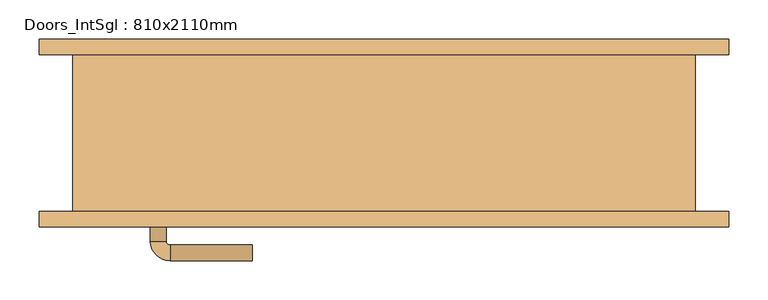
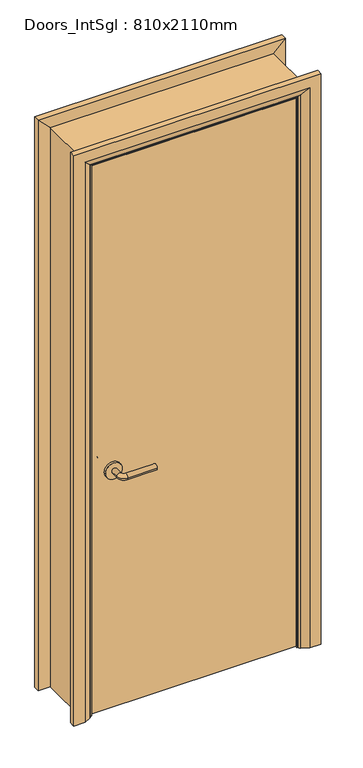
"""IFC4 building model written with IfcOpenShell, lengths in millimetres: door geometry, Doors_IntSgl : 810x2110mm."""

from ifc_helpers import new_model, si_unit, point, frame, frame_2d, origin, place, context, project, spatial, polyline, circle_curve, ellipse_curve, trimmed, segment, composite_curve, outline, extrude, faceted_brep, source, transform, mapped, element, save
from ifc_brep_helpers import plane_surface, cylinder_surface, revolved_surface, advanced_brep


def doors_intsgl_810x2110mm_068f3592(model_context):
    return source(origin(), model_context, "Body", "SolidModel", [
        advanced_brep(
        [(-298.0, -54.0, 900.0), (-278.0, -54.0, 900.0), (-298.0, -24.0, 900.0), (-278.0, -24.0, 900.0), (-273.0, -19.0, 900.0), (-273.0, 1.0, 900.0), (-168.0, 1.0, 900.0), (-168.0, -19.0, 900.0)],
        [
            (0, 1, circle_curve(frame((-288.0, -54.0, 900.0), z_axis=(0.0, -1.0, 0.0), x_axis=(1.0, 0.0, 0.0)), 10.0)),
            (1, 0, circle_curve(frame((-288.0, -54.0, 900.0), z_axis=(0.0, -1.0, 0.0), x_axis=(1.0, 0.0, 0.0)), 10.0)),
            (0, 2),
            (2, 3, circle_curve(frame((-288.0, -24.0, 900.0), z_axis=(0.0, -1.0, 0.0), x_axis=(1.0, 0.0, 0.0)), 10.0)),
            (3, 1),
            (3, 2, circle_curve(frame((-288.0, -24.0, 900.0), z_axis=(0.0, -1.0, 0.0), x_axis=(1.0, 0.0, 0.0)), 10.0)),
            (4, 3, circle_curve(frame((-273.0, -24.0, 900.0), z_axis=(0.0, 0.0, 1.0), x_axis=(-1.0, 0.0, 0.0)), 5.0)),
            (2, 5, circle_curve(frame((-273.0, -24.0, 900.0), z_axis=(0.0, 0.0, -1.0), x_axis=(-1.0, 0.0, 0.0)), 25.0)),
            (5, 4, circle_curve(frame((-273.0, -9.0, 900.0), z_axis=(-1.0, 0.0, 0.0), x_axis=(0.0, -1.0, 0.0)), 10.0)),
            (4, 5, circle_curve(frame((-273.0, -9.0, 900.0), z_axis=(-1.0, 0.0, 0.0), x_axis=(0.0, -1.0, 0.0)), 10.0)),
            (6, 7, circle_curve(frame((-168.0, -9.0, 900.0), z_axis=(1.0, 0.0, 0.0), x_axis=(0.0, -1.0, 0.0)), 10.0)),
            (7, 6, circle_curve(frame((-168.0, -9.0, 900.0), z_axis=(1.0, 0.0, 0.0), x_axis=(0.0, -1.0, 0.0)), 10.0)),
            (5, 6),
            (7, 4),
        ],
        [
            plane_surface(frame((-288.0, -54.0, 900.0), z_axis=(0.0, -1.0, 0.0), x_axis=(0.0, 0.0, 1.0))),
            cylinder_surface(frame((-288.0, -54.0, 900.0), z_axis=(0.0, -1.0, 0.0), x_axis=(1.0, 0.0, 0.0)), 10.0),
            revolved_surface(trimmed(ellipse_curve(frame((-288.0, -24.0, 900.0), z_axis=(0.0, -1.0, 0.0), x_axis=(1.0, 0.0, 0.0)), 10.0, 10.0), [point((-298.0, -24.0, 900.0))], [point((-278.0, -24.0, 900.0))], True, "CARTESIAN"), (-273.0, -24.0, 900.0), (0.0, 0.0, -1.0)),
            revolved_surface(trimmed(ellipse_curve(frame((-288.0, -24.0, 900.0), z_axis=(0.0, -1.0, 0.0), x_axis=(1.0, 0.0, 0.0)), 10.0, 10.0), [point((-278.0, -24.0, 900.0))], [point((-298.0, -24.0, 900.0))], True, "CARTESIAN"), (-273.0, -24.0, 900.0), (0.0, 0.0, -1.0)),
            plane_surface(frame((-168.0, -9.0, 900.0), z_axis=(1.0, 0.0, 0.0), x_axis=(0.0, 0.0, 1.0))),
            cylinder_surface(frame((-273.0, -9.0, 900.0), z_axis=(-1.0, 0.0, 0.0), x_axis=(0.0, -1.0, 0.0)), 10.0),
        ],
        [
            (0, [[1, 2]]),
            (1, [[-1, 3, 4, 5]]),
            (1, [[-2, -5, 6, -3]]),
            (2, [[7, -4, 8, 9]]),
            (3, [[-8, -6, -7, 10]]),
            (4, [[11, 12]]),
            (5, [[-9, 13, -12, 14]]),
            (5, [[-10, -14, -11, -13]]),
        ],
    ),
        extrude(outline(composite_curve([segment(trimmed(circle_curve(frame_2d((900.0, -290.5)), 30.0), [point((900.0, -320.5))], [point((900.0, -260.5))], False, "CARTESIAN"), True, "CONTINUOUS"), segment(trimmed(circle_curve(frame_2d((900.0, -290.5)), 30.0), [point((900.0, -260.5))], [point((900.0, -320.5))], False, "CARTESIAN"), True, "CONTINUOUS")], self_intersect=False)), frame((0.0, -62.0, 0.0), z_axis=(0.0, 1.0, 0.0), x_axis=(0.0, 0.0, 1.0)), (0.0, 0.0, 1.0), 8.0),
        advanced_brep(
        [(-298.0, -108.0, 900.0), (-278.0, -108.0, 900.0), (-278.0, -138.0, 900.0), (-298.0, -138.0, 900.0), (-273.0, -143.0, 900.0), (-273.0, -163.0, 900.0), (-168.0, -163.0, 900.0), (-168.0, -143.0, 900.0)],
        [
            (0, 1, circle_curve(frame((-288.0, -108.0, 900.0), z_axis=(0.0, 1.0, 0.0), x_axis=(1.0, 0.0, 0.0)), 10.0)),
            (1, 0, circle_curve(frame((-288.0, -108.0, 900.0), z_axis=(0.0, 1.0, 0.0), x_axis=(1.0, 0.0, 0.0)), 10.0)),
            (1, 2),
            (2, 3, circle_curve(frame((-288.0, -138.0, 900.0), z_axis=(0.0, 1.0, 0.0), x_axis=(1.0, 0.0, 0.0)), 10.0)),
            (3, 0),
            (3, 2, circle_curve(frame((-288.0, -138.0, 900.0), z_axis=(0.0, 1.0, 0.0), x_axis=(1.0, 0.0, 0.0)), 10.0)),
            (4, 5, circle_curve(frame((-273.0, -153.0, 900.0), z_axis=(-1.0, 0.0, 0.0), x_axis=(0.0, 1.0, 0.0)), 10.0)),
            (5, 3, circle_curve(frame((-273.0, -138.0, 900.0), z_axis=(0.0, 0.0, -1.0), x_axis=(-1.0, 0.0, 0.0)), 25.0)),
            (2, 4, circle_curve(frame((-273.0, -138.0, 900.0), z_axis=(0.0, 0.0, 1.0), x_axis=(-1.0, 0.0, 0.0)), 5.0)),
            (5, 4, circle_curve(frame((-273.0, -153.0, 900.0), z_axis=(-1.0, 0.0, 0.0), x_axis=(0.0, 1.0, 0.0)), 10.0)),
            (6, 7, circle_curve(frame((-168.0, -153.0, 900.0), z_axis=(1.0, 0.0, 0.0), x_axis=(0.0, 1.0, 0.0)), 10.0)),
            (7, 6, circle_curve(frame((-168.0, -153.0, 900.0), z_axis=(1.0, 0.0, 0.0), x_axis=(0.0, 1.0, 0.0)), 10.0)),
            (4, 7),
            (6, 5),
        ],
        [
            plane_surface(frame((-288.0, -108.0, 900.0), z_axis=(0.0, 1.0, 0.0), x_axis=(0.0, 0.0, 1.0))),
            cylinder_surface(frame((-288.0, -108.0, 900.0), z_axis=(0.0, 1.0, 0.0), x_axis=(1.0, 0.0, 0.0)), 10.0),
            revolved_surface(trimmed(ellipse_curve(frame((-288.0, -138.0, 900.0), z_axis=(0.0, -1.0, 0.0), x_axis=(1.0, 0.0, 0.0)), 10.0, 10.0), [point((-298.0, -138.0, 900.0))], [point((-278.0, -138.0, 900.0))], True, "CARTESIAN"), (-273.0, -138.0, 900.0), (0.0, 0.0, -1.0)),
            revolved_surface(trimmed(ellipse_curve(frame((-288.0, -138.0, 900.0), z_axis=(0.0, -1.0, 0.0), x_axis=(1.0, 0.0, 0.0)), 10.0, 10.0), [point((-278.0, -138.0, 900.0))], [point((-298.0, -138.0, 900.0))], True, "CARTESIAN"), (-273.0, -138.0, 900.0), (0.0, 0.0, -1.0)),
            plane_surface(frame((-168.0, -153.0, 900.0), z_axis=(1.0, 0.0, 0.0), x_axis=(0.0, 0.0, 1.0))),
            cylinder_surface(frame((-273.0, -153.0, 900.0), z_axis=(-1.0, 0.0, 0.0), x_axis=(0.0, 1.0, 0.0)), 10.0),
        ],
        [
            (0, [[1, 2]]),
            (1, [[3, 4, 5, -2]]),
            (1, [[-5, 6, -3, -1]]),
            (2, [[7, 8, -4, 9]]),
            (3, [[10, -9, -6, -8]]),
            (4, [[11, 12]]),
            (5, [[13, -11, 14, -7]]),
            (5, [[-14, -12, -13, -10]]),
        ],
    ),
        extrude(outline(composite_curve([segment(trimmed(circle_curve(frame_2d((900.0, -290.5)), 30.0), [point((900.0, -320.5))], [point((900.0, -260.5))], False, "CARTESIAN"), True, "CONTINUOUS"), segment(trimmed(circle_curve(frame_2d((900.0, -290.5)), 30.0), [point((900.0, -260.5))], [point((900.0, -320.5))], False, "CARTESIAN"), True, "CONTINUOUS")], self_intersect=False)), frame((0.0, -108.0, 0.0), z_axis=(0.0, 1.0, 0.0), x_axis=(0.0, 0.0, 1.0)), (0.0, 0.0, 1.0), 8.0),
        extrude(outline(polyline([(363.0, -62.0), (363.0, -100.0), (-363.0, -100.0), (-363.0, -62.0), (363.0, -62.0)])), frame((0.0, 0.0, 8.0), z_axis=(0.0, 0.0, 1.0), x_axis=(1.0, 0.0, 0.0)), (0.0, 0.0, 1.0), 2060.0),
        advanced_brep(
        [(440.0, -120.0, 0.0), (400.0, -120.0, 0.0), (374.0, -106.0, 0.0), (370.0, -100.0, 0.0), (440.0, -100.0, 0.0), (440.0, -100.0, 2145.0), (440.0, -120.0, 2145.0), (370.0, -100.0, 2075.0), (-370.0, -100.0, 2075.0), (-370.0, -100.0, 0.0), (-440.0, -100.0, 0.0), (-440.0, -100.0, 2145.0), (374.0, -106.0, 2079.0), (400.0, -120.0, 2105.0), (-440.0, -120.0, 2145.0), (-440.0, -120.0, 0.0), (-400.0, -120.0, 0.0), (-400.0, -120.0, 2105.0), (-374.0, -106.0, 2079.0), (-374.0, -106.0, 0.0)],
        [
            (0, 1),
            (1, 2),
            (2, 3, circle_curve(frame((378.0, -99.0, 0.0), z_axis=(0.0, 0.0, -1.0), x_axis=(1.0, 0.0, 0.0)), 8.0622577)),
            (3, 4),
            (4, 0),
            (4, 5),
            (5, 6),
            (6, 0),
            (3, 7),
            (7, 8),
            (8, 9),
            (9, 10),
            (10, 11),
            (11, 5),
            (2, 12),
            (12, 7, ellipse_curve(frame((378.0, -99.0, 2083.0), z_axis=(0.7071067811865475, 0.0, -0.7071067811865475), x_axis=(-0.7071067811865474, 0.0, -0.7071067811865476)), 11.4017543, 8.0622577)),
            (1, 13),
            (13, 12),
            (6, 14),
            (14, 15),
            (15, 16),
            (16, 17),
            (17, 13),
            (11, 14),
            (12, 18),
            (18, 8, ellipse_curve(frame((-378.0, -99.0, 2083.0), z_axis=(0.7071067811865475, 0.0, 0.7071067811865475), x_axis=(0.7071067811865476, 0.0, -0.7071067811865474)), 11.4017543, 8.0622577)),
            (17, 18),
            (15, 10),
            (9, 19, circle_curve(frame((-378.0, -99.0, 0.0), z_axis=(0.0, 0.0, -1.0), x_axis=(-1.0, 0.0, 0.0)), 8.0622577)),
            (19, 16),
            (18, 19),
        ],
        [
            plane_surface(frame((370.0, -100.0, 0.0), z_axis=(0.0, 0.0, -1.0), x_axis=(0.0, 1.0, 0.0))),
            plane_surface(frame((440.0, -120.0, 0.0), z_axis=(1.0, 0.0, 0.0), x_axis=(0.0, 0.0, 1.0))),
            plane_surface(frame((440.0, -100.0, 0.0), z_axis=(0.0, 1.0, 0.0), x_axis=(0.0, 0.0, 1.0))),
            cylinder_surface(frame((378.0, -99.0, 0.0), z_axis=(0.0, 0.0, -1.0), x_axis=(1.0, 0.0, 0.0)), 8.0622577),
            plane_surface(frame((374.0, -106.0, 0.0), z_axis=(-0.4740998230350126, -0.880471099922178, 0.0), x_axis=(0.0, 0.0, 1.0))),
            plane_surface(frame((400.0, -120.0, 0.0), z_axis=(0.0, -1.0, 0.0), x_axis=(0.0, 0.0, 1.0))),
            plane_surface(frame((440.0, -120.0, 2145.0), z_axis=(0.0, 0.0, 1.0), x_axis=(-1.0, 0.0, 0.0))),
            cylinder_surface(frame((370.0, -99.0, 2083.0), z_axis=(1.0, 0.0, 0.0), x_axis=(0.0, 0.0, 1.0)), 8.0622577),
            plane_surface(frame((374.0, -106.0, 2079.0), z_axis=(0.0, -0.8804710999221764, -0.4740998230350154), x_axis=(-1.0, 0.0, 0.0))),
            plane_surface(frame((-370.0, -100.0, 0.0), z_axis=(0.0, 0.0, -1.0), x_axis=(0.0, 1.0, 0.0))),
            plane_surface(frame((-440.0, -120.0, 2145.0), z_axis=(-1.0, 0.0, 0.0), x_axis=(0.0, 0.0, -1.0))),
            cylinder_surface(frame((-378.0, -99.0, 2075.0), z_axis=(0.0, 0.0, 1.0), x_axis=(-1.0, 0.0, 0.0)), 8.0622577),
            plane_surface(frame((-374.0, -106.0, 2079.0), z_axis=(0.47409982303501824, -0.8804710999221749, 0.0), x_axis=(0.0, 0.0, -1.0))),
        ],
        [
            (0, [[1, 2, 3, 4, 5]]),
            (1, [[6, 7, 8, -5]]),
            (2, [[9, 10, 11, 12, 13, 14, -6, -4]]),
            (3, [[15, 16, -9, -3]]),
            (4, [[17, 18, -15, -2]]),
            (5, [[-8, 19, 20, 21, 22, 23, -17, -1]]),
            (6, [[-14, 24, -19, -7]]),
            (7, [[25, 26, -10, -16]]),
            (8, [[-23, 27, -25, -18]]),
            (9, [[28, -12, 29, 30, -21]]),
            (10, [[-13, -28, -20, -24]]),
            (11, [[31, -29, -11, -26]]),
            (12, [[-22, -30, -31, -27]]),
        ],
    ),
        extrude(outline(polyline([(0.0, -346.0), (2051.0, -346.0), (2051.0, 346.0), (0.0, 346.0), (0.0, 365.0), (2070.0, 365.0), (2070.0, -365.0), (0.0, -365.0), (0.0, -346.0)])), frame((0.0, -60.0, 0.0), z_axis=(0.0, 1.0, 0.0), x_axis=(0.0, 0.0, 1.0)), (0.0, 0.0, 1.0), 32.0),
        advanced_brep(
        [(-440.0, 120.0, 0.0), (-400.0, 120.0, 0.0), (-374.0, 106.0, 0.0), (-370.0, 100.0, 0.0), (-440.0, 100.0, 0.0), (-440.0, 100.0, 2145.0), (-440.0, 120.0, 2145.0), (-370.0, 100.0, 2075.0), (-374.0, 106.0, 2079.0), (-400.0, 120.0, 2105.0), (440.0, 100.0, 2145.0), (440.0, 120.0, 2145.0), (370.0, 100.0, 2075.0), (374.0, 106.0, 2079.0), (400.0, 120.0, 2105.0), (440.0, 120.0, 0.0), (440.0, 100.0, 0.0), (370.0, 100.0, 0.0), (374.0, 106.0, 0.0), (400.0, 120.0, 0.0)],
        [
            (0, 1),
            (1, 2),
            (2, 3, circle_curve(frame((-378.0, 99.0, 0.0), z_axis=(0.0, 0.0, -1.0), x_axis=(-1.0, 0.0, 0.0)), 8.0622577)),
            (3, 4),
            (4, 0),
            (4, 5),
            (5, 6),
            (6, 0),
            (3, 7),
            (7, 5),
            (2, 8),
            (8, 7, ellipse_curve(frame((-378.0, 99.0, 2083.0), z_axis=(-0.7071067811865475, 0.0, -0.7071067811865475), x_axis=(0.7071067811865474, 0.0, -0.7071067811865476)), 11.4017543, 8.0622577)),
            (1, 9),
            (9, 8),
            (6, 9),
            (5, 10),
            (10, 11),
            (11, 6),
            (7, 12),
            (12, 10),
            (8, 13),
            (13, 12, ellipse_curve(frame((378.0, 99.0, 2083.0), z_axis=(-0.7071067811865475, 0.0, 0.7071067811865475), x_axis=(-0.7071067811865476, 0.0, -0.7071067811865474)), 11.4017543, 8.0622577)),
            (9, 14),
            (14, 13),
            (11, 14),
            (15, 16),
            (16, 17),
            (17, 18, circle_curve(frame((378.0, 99.0, 0.0), z_axis=(0.0, 0.0, -1.0), x_axis=(1.0, 0.0, 0.0)), 8.0622577)),
            (18, 19),
            (19, 15),
            (10, 16),
            (15, 11),
            (12, 17),
            (13, 18),
            (14, 19),
        ],
        [
            plane_surface(frame((-370.0, 172.8010989, 0.0), z_axis=(0.0, 0.0, -1.0), x_axis=(1.0, 0.0, 0.0))),
            plane_surface(frame((-440.0, 120.0, 0.0), z_axis=(-1.0, 0.0, 0.0), x_axis=(0.0, 0.0, 1.0))),
            plane_surface(frame((-440.0, 100.0, 0.0), z_axis=(0.0, -1.0, 0.0), x_axis=(0.0, 0.0, 1.0))),
            cylinder_surface(frame((-378.0, 99.0, 0.0), z_axis=(0.0, 0.0, -1.0), x_axis=(-1.0, 0.0, 0.0)), 8.0622577),
            plane_surface(frame((-374.0, 106.0, 0.0), z_axis=(0.4740998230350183, 0.8804710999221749, 0.0), x_axis=(0.0, 0.0, 1.0))),
            plane_surface(frame((-400.0, 120.0, 0.0), z_axis=(0.0, 1.0, 0.0), x_axis=(0.0, 0.0, 1.0))),
            plane_surface(frame((-440.0, 120.0, 2145.0), z_axis=(0.0, 0.0, 1.0), x_axis=(1.0, 0.0, 0.0))),
            plane_surface(frame((-440.0, 100.0, 2145.0), z_axis=(0.0, -1.0, 0.0), x_axis=(1.0, 0.0, 0.0))),
            cylinder_surface(frame((-370.0, 99.0, 2083.0), z_axis=(-1.0, 0.0, 0.0), x_axis=(0.0, 0.0, 1.0)), 8.0622577),
            plane_surface(frame((-374.0, 106.0, 2079.0), z_axis=(0.0, 0.8804710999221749, -0.4740998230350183), x_axis=(1.0, 0.0, 0.0))),
            plane_surface(frame((-400.0, 120.0, 2105.0), z_axis=(0.0, 1.0, 0.0), x_axis=(1.0, 0.0, 0.0))),
            plane_surface(frame((370.0, 172.8010989, 0.0), z_axis=(0.0, 0.0, -1.0), x_axis=(-1.0, 0.0, 0.0))),
            plane_surface(frame((440.0, 120.0, 2145.0), z_axis=(1.0, 0.0, 0.0), x_axis=(0.0, 0.0, -1.0))),
            plane_surface(frame((440.0, 100.0, 2145.0), z_axis=(0.0, -1.0, 0.0), x_axis=(0.0, 0.0, -1.0))),
            cylinder_surface(frame((378.0, 99.0, 2075.0), z_axis=(0.0, 0.0, 1.0), x_axis=(1.0, 0.0, 0.0)), 8.0622577),
            plane_surface(frame((374.0, 106.0, 2079.0), z_axis=(-0.4740998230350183, 0.8804710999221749, 0.0), x_axis=(0.0, 0.0, -1.0))),
            plane_surface(frame((400.0, 120.0, 2105.0), z_axis=(0.0, 1.0, 0.0), x_axis=(0.0, 0.0, -1.0))),
        ],
        [
            (0, [[1, 2, 3, 4, 5]]),
            (1, [[6, 7, 8, -5]]),
            (2, [[9, 10, -6, -4]]),
            (3, [[11, 12, -9, -3]]),
            (4, [[13, 14, -11, -2]]),
            (5, [[-8, 15, -13, -1]]),
            (6, [[16, 17, 18, -7]]),
            (7, [[19, 20, -16, -10]]),
            (8, [[21, 22, -19, -12]]),
            (9, [[23, 24, -21, -14]]),
            (10, [[-18, 25, -23, -15]]),
            (11, [[26, 27, 28, 29, 30]]),
            (12, [[31, -26, 32, -17]]),
            (13, [[33, -27, -31, -20]]),
            (14, [[34, -28, -33, -22]]),
            (15, [[35, -29, -34, -24]]),
            (16, [[-32, -30, -35, -25]]),
        ],
    ),
        faceted_brep([(-365.0, -100.0, 0.0), (-397.0, -100.0, 0.0), (-397.0, 100.0, 0.0), (-365.0, 100.0, 0.0), (-365.0, 100.0, 2070.0), (-365.0, -100.0, 2070.0), (-397.0, 100.0, 2102.0), (-397.0, -100.0, 2102.0), (365.0, 100.0, 2070.0), (365.0, -100.0, 2070.0), (397.0, 100.0, 2102.0), (397.0, -100.0, 2102.0), (365.0, -100.0, 0.0), (365.0, 100.0, 0.0), (397.0, 100.0, 0.0), (397.0, -100.0, 0.0)], [[[0, 1, 2, 3]], [[3, 4, 5, 0]], [[2, 6, 4, 3]], [[1, 7, 6, 2]], [[0, 5, 7, 1]], [[4, 8, 9, 5]], [[6, 10, 8, 4]], [[7, 11, 10, 6]], [[5, 9, 11, 7]], [[12, 13, 14, 15]], [[8, 13, 12, 9]], [[10, 14, 13, 8]], [[11, 15, 14, 10]], [[9, 12, 15, 11]]]),
    ])


if __name__ == "__main__":
    model = new_model("IFC4")
    model_context = context("Model", 3, world=origin())
    ifc_project = project(units=[si_unit("LENGTHUNIT", "METRE", prefix="MILLI")], contexts=[model_context])
    site = spatial("IfcSite", under=ifc_project)
    building = spatial("IfcBuilding", under=site)
    placement = place(None, origin())
    doors_intsgl_810x2110mm_shape = doors_intsgl_810x2110mm_068f3592(model_context)
    element("IfcDoor", 1, ObjectType="Doors_IntSgl : 810x2110mm", at=placement, inside=building, context=model_context, shape_type="MappedRepresentation", body=[
        mapped(doors_intsgl_810x2110mm_shape, transform((0.0, 0.0, 0.0), x_axis=(1.0, 0.0, 0.0), y_axis=(0.0, 1.0, 0.0), z_axis=(0.0, 0.0, 1.0))),
    ])
    save(model, "model.ifc")
